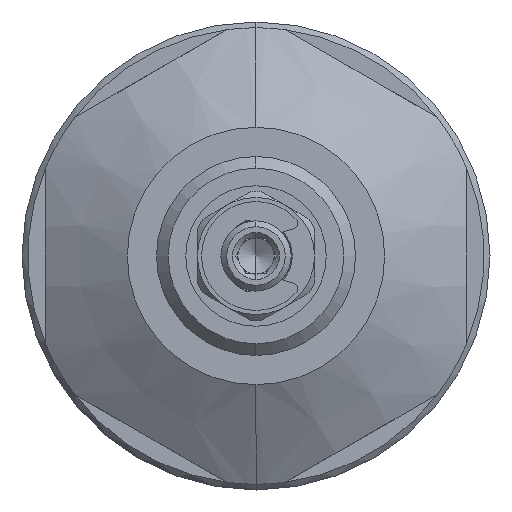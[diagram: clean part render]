
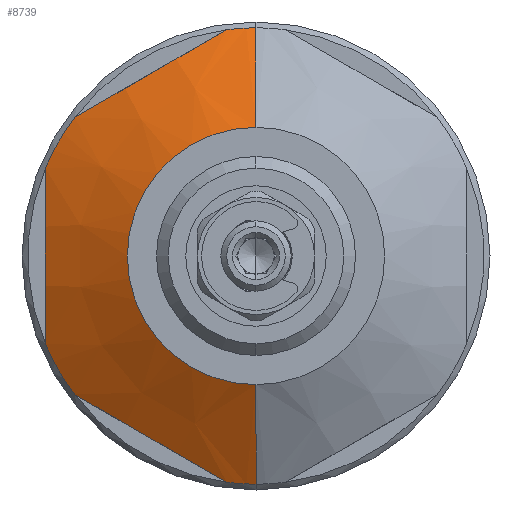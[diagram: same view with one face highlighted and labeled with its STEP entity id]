
A CAD part, left-side view. The second image highlights one B-rep face of the part: STEP entity #8739.
In plain terms, the highlighted conical face has half-angle 60 degrees and reference radius 19.5 mm.
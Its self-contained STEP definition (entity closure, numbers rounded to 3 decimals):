
#56 = CARTESIAN_POINT ( 'NONE',  ( 17.635, 18., 6.275 ) ) ;
#254 = ORIENTED_EDGE ( 'NONE', *, *, #8807, .F. ) ;
#284 = CARTESIAN_POINT ( 'NONE',  ( 17.907, 0., 0. ) ) ;
#305 = CARTESIAN_POINT ( 'NONE',  ( 17.134, 6.843, 16.834 ) ) ;
#477 = CARTESIAN_POINT ( 'NONE',  ( 17.907, 15.495, 11.838 ) ) ;
#594 = CIRCLE ( 'NONE', #3028, 19.5 ) ;
#618 = ORIENTED_EDGE ( 'NONE', *, *, #5226, .T. ) ;
#633 = VERTEX_POINT ( 'NONE', #5353 ) ;
#885 = AXIS2_PLACEMENT_3D ( 'NONE', #3150, #10331, #4168 ) ;
#1241 = CARTESIAN_POINT ( 'NONE',  ( 17.415, 13.35, 13.077 ) ) ;
#1319 = DIRECTION ( 'NONE',  ( 0., 0., -1. ) ) ;
#1329 = DIRECTION ( 'NONE',  ( 0.5, 0., 0.866 ) ) ;
#1337 = CARTESIAN_POINT ( 'NONE',  ( 17.413, 4.659, 18.095 ) ) ;
#1514 = ORIENTED_EDGE ( 'NONE', *, *, #5038, .F. ) ;
#1679 = CARTESIAN_POINT ( 'NONE',  ( 17.415, 4.65, -18.1 ) ) ;
#2242 = VECTOR ( 'NONE', #1329, 1000. ) ;
#2271 = CARTESIAN_POINT ( 'NONE',  ( 17.907, 18., 7.5 ) ) ;
#2378 = CARTESIAN_POINT ( 'NONE',  ( 17.907, 2.505, 19.338 ) ) ;
#2447 = B_SPLINE_CURVE_WITH_KNOTS ( 'NONE', 3,
 ( #10565, #9545, #1241, #11627, #5434, #12667, #6486, #305, #7530, #1337, #8565, #2378 ),
 .UNSPECIFIED., .F., .F.,
 ( 4, 2, 2, 2, 2, 4 ),
 ( 0., 0.004, 0.008, 0.009, 0.011, 0.015 ),
 .UNSPECIFIED. ) ;
#2558 = EDGE_CURVE ( 'NONE', #10653, #8678, #594, .T. ) ;
#2721 = CARTESIAN_POINT ( 'NONE',  ( 17.043, 7.89, -16.229 ) ) ;
#2801 = ORIENTED_EDGE ( 'NONE', *, *, #2558, .F. ) ;
#2822 = ORIENTED_EDGE ( 'NONE', *, *, #2832, .F. ) ;
#2832 = EDGE_CURVE ( 'NONE', #633, #4782, #11671, .T. ) ;
#2860 = CIRCLE ( 'NONE', #9314, 19.5 ) ;
#3028 = AXIS2_PLACEMENT_3D ( 'NONE', #11668, #5501, #12710 ) ;
#3138 = DIRECTION ( 'NONE',  ( 1., 0., 0. ) ) ;
#3150 = CARTESIAN_POINT ( 'NONE',  ( 17.907, 0., 0. ) ) ;
#3339 = CARTESIAN_POINT ( 'NONE',  ( 17.907, 18., 7.5 ) ) ;
#3359 = ORIENTED_EDGE ( 'NONE', *, *, #7103, .F. ) ;
#3405 = CARTESIAN_POINT ( 'NONE',  ( 13., 0., 0. ) ) ;
#3515 = CIRCLE ( 'NONE', #9732, 19.5 ) ;
#3742 = CARTESIAN_POINT ( 'NONE',  ( 17.059, 10.066, -14.973 ) ) ;
#4104 = LINE ( 'NONE', #10018, #9263 ) ;
#4168 = DIRECTION ( 'NONE',  ( 0., 0., -1. ) ) ;
#4401 = CARTESIAN_POINT ( 'NONE',  ( 17.907, 0., 19.5 ) ) ;
#4442 = DIRECTION ( 'NONE',  ( 0., 0., -1. ) ) ;
#4782 = VERTEX_POINT ( 'NONE', #3339 ) ;
#4794 = CARTESIAN_POINT ( 'NONE',  ( 17.191, 11.705, -14.027 ) ) ;
#4970 = LINE ( 'NONE', #4401, #2242 ) ;
#5038 = EDGE_CURVE ( 'NONE', #6420, #633, #10621, .T. ) ;
#5042 = CARTESIAN_POINT ( 'NONE',  ( 17.417, 18., 5.035 ) ) ;
#5071 = CARTESIAN_POINT ( 'NONE',  ( 17.119, 18., -2.519 ) ) ;
#5226 = EDGE_CURVE ( 'NONE', #5349, #8678, #4970, .T. ) ;
#5349 = VERTEX_POINT ( 'NONE', #6620 ) ;
#5353 = CARTESIAN_POINT ( 'NONE',  ( 17.907, 18., -7.5 ) ) ;
#5362 = DIRECTION ( 'NONE',  ( 1., 0., 0. ) ) ;
#5434 = CARTESIAN_POINT ( 'NONE',  ( 17.043, 10.11, 14.948 ) ) ;
#5501 = DIRECTION ( 'NONE',  ( 1., 0., 0. ) ) ;
#5666 = CARTESIAN_POINT ( 'NONE',  ( 17.907, 15.495, -11.838 ) ) ;
#5839 = CARTESIAN_POINT ( 'NONE',  ( 17.632, 14.422, -12.458 ) ) ;
#5840 = CARTESIAN_POINT ( 'NONE',  ( 17.907, 2.505, -19.338 ) ) ;
#6117 = CARTESIAN_POINT ( 'NONE',  ( 17.041, 18., 0.619 ) ) ;
#6420 = VERTEX_POINT ( 'NONE', #5666 ) ;
#6458 = ORIENTED_EDGE ( 'NONE', *, *, #10995, .T. ) ;
#6486 = CARTESIAN_POINT ( 'NONE',  ( 17.059, 7.934, 16.204 ) ) ;
#6554 = VERTEX_POINT ( 'NONE', #5840 ) ;
#6620 = CARTESIAN_POINT ( 'NONE',  ( 13., 0., 11. ) ) ;
#6727 = AXIS2_PLACEMENT_3D ( 'NONE', #9332, #3138, #9388 ) ;
#6780 = EDGE_CURVE ( 'NONE', #11406, #6554, #2860, .T. ) ;
#7041 = ORIENTED_EDGE ( 'NONE', *, *, #8926, .F. ) ;
#7103 = EDGE_CURVE ( 'NONE', #8391, #10653, #2447, .T. ) ;
#7307 = CARTESIAN_POINT ( 'NONE',  ( 17.136, 18., 2.511 ) ) ;
#7515 = DIRECTION ( 'NONE',  ( 1., 0., 0. ) ) ;
#7530 = CARTESIAN_POINT ( 'NONE',  ( 17.191, 6.295, 17.15 ) ) ;
#8130 = CARTESIAN_POINT ( 'NONE',  ( 17.193, 18., 3.145 ) ) ;
#8161 = CARTESIAN_POINT ( 'NONE',  ( 17.907, 0., -19.5 ) ) ;
#8391 = VERTEX_POINT ( 'NONE', #477 ) ;
#8525 = CONICAL_SURFACE ( 'NONE', #6727, 19.5, 1.047 ) ;
#8565 = CARTESIAN_POINT ( 'NONE',  ( 17.632, 3.578, 18.719 ) ) ;
#8678 = VERTEX_POINT ( 'NONE', #10268 ) ;
#8739 = ADVANCED_FACE ( 'NONE', ( #9812 ), #8525, .T. ) ;
#8807 = EDGE_CURVE ( 'NONE', #4782, #8391, #3515, .T. ) ;
#8894 = CARTESIAN_POINT ( 'NONE',  ( 17.12, 6.807, -16.854 ) ) ;
#8926 = EDGE_CURVE ( 'NONE', #6554, #6420, #13250, .T. ) ;
#9202 = ORIENTED_EDGE ( 'NONE', *, *, #10187, .F. ) ;
#9263 = VECTOR ( 'NONE', #12128, 1000. ) ;
#9314 = AXIS2_PLACEMENT_3D ( 'NONE', #11540, #5362, #12590 ) ;
#9332 = CARTESIAN_POINT ( 'NONE',  ( 17.907, 0., 0. ) ) ;
#9388 = DIRECTION ( 'NONE',  ( 0., 0., -1. ) ) ;
#9508 = VERTEX_POINT ( 'NONE', #9531 ) ;
#9531 = CARTESIAN_POINT ( 'NONE',  ( 13., 0., -11. ) ) ;
#9545 = CARTESIAN_POINT ( 'NONE',  ( 17.633, 14.424, 12.457 ) ) ;
#9732 = AXIS2_PLACEMENT_3D ( 'NONE', #284, #7515, #1319 ) ;
#9812 = FACE_OUTER_BOUND ( 'NONE', #10007, .T. ) ;
#9836 = CARTESIAN_POINT ( 'NONE',  ( 17.907, 2.505, -19.338 ) ) ;
#9863 = CARTESIAN_POINT ( 'NONE',  ( 17.907, 2.505, 19.338 ) ) ;
#9909 = CARTESIAN_POINT ( 'NONE',  ( 17.041, 9.521, -15.288 ) ) ;
#10007 = EDGE_LOOP ( 'NONE', ( #6458, #618, #2801, #3359, #254, #2822, #1514, #7041, #10315, #9202 ) ) ;
#10018 = CARTESIAN_POINT ( 'NONE',  ( 17.907, 0., -19.5 ) ) ;
#10187 = EDGE_CURVE ( 'NONE', #9508, #11406, #4104, .T. ) ;
#10268 = CARTESIAN_POINT ( 'NONE',  ( 17.907, 0., 19.5 ) ) ;
#10315 = ORIENTED_EDGE ( 'NONE', *, *, #6780, .F. ) ;
#10331 = DIRECTION ( 'NONE',  ( 1., 0., 0. ) ) ;
#10565 = CARTESIAN_POINT ( 'NONE',  ( 17.907, 15.495, 11.838 ) ) ;
#10602 = DIRECTION ( 'NONE',  ( 1., 0., 0. ) ) ;
#10621 = CIRCLE ( 'NONE', #885, 19.5 ) ;
#10653 = VERTEX_POINT ( 'NONE', #9863 ) ;
#10969 = CARTESIAN_POINT ( 'NONE',  ( 17.134, 11.157, -14.343 ) ) ;
#10995 = EDGE_CURVE ( 'NONE', #9508, #5349, #13119, .T. ) ;
#11204 = CARTESIAN_POINT ( 'NONE',  ( 17.633, 18., -6.262 ) ) ;
#11247 = CARTESIAN_POINT ( 'NONE',  ( 17.414, 18., -5.016 ) ) ;
#11406 = VERTEX_POINT ( 'NONE', #8161 ) ;
#11540 = CARTESIAN_POINT ( 'NONE',  ( 17.907, 0., 0. ) ) ;
#11627 = CARTESIAN_POINT ( 'NONE',  ( 17.12, 11.193, 14.323 ) ) ;
#11668 = CARTESIAN_POINT ( 'NONE',  ( 17.907, 0., 0. ) ) ;
#11671 = B_SPLINE_CURVE_WITH_KNOTS ( 'NONE', 3,
 ( #12245, #11204, #11247, #5071, #12293, #6117, #13328, #7307, #8130, #5042, #56, #2271 ),
 .UNSPECIFIED., .F., .F.,
 ( 4, 2, 2, 2, 2, 4 ),
 ( 0.021, 0.024, 0.028, 0.03, 0.032, 0.036 ),
 .UNSPECIFIED. ) ;
#12006 = CARTESIAN_POINT ( 'NONE',  ( 17.413, 13.341, -13.082 ) ) ;
#12128 = DIRECTION ( 'NONE',  ( 0.5, 0., -0.866 ) ) ;
#12245 = CARTESIAN_POINT ( 'NONE',  ( 17.907, 18., -7.5 ) ) ;
#12293 = CARTESIAN_POINT ( 'NONE',  ( 17.042, 18., -1.267 ) ) ;
#12462 = AXIS2_PLACEMENT_3D ( 'NONE', #3405, #10602, #4442 ) ;
#12590 = DIRECTION ( 'NONE',  ( 0., 0., -1. ) ) ;
#12667 = CARTESIAN_POINT ( 'NONE',  ( 17.041, 8.479, 15.889 ) ) ;
#12710 = DIRECTION ( 'NONE',  ( 0., 0., -1. ) ) ;
#12995 = CARTESIAN_POINT ( 'NONE',  ( 17.633, 3.576, -18.72 ) ) ;
#13035 = CARTESIAN_POINT ( 'NONE',  ( 17.907, 15.495, -11.838 ) ) ;
#13119 = CIRCLE ( 'NONE', #12462, 11. ) ;
#13250 = B_SPLINE_CURVE_WITH_KNOTS ( 'NONE', 3,
 ( #9836, #12995, #1679, #8894, #2721, #9909, #3742, #10969, #4794, #12006, #5839, #13035 ),
 .UNSPECIFIED., .F., .F.,
 ( 4, 2, 2, 2, 2, 4 ),
 ( 0., 0.004, 0.008, 0.009, 0.011, 0.015 ),
 .UNSPECIFIED. ) ;
#13328 = CARTESIAN_POINT ( 'NONE',  ( 17.06, 18., 1.249 ) ) ;
